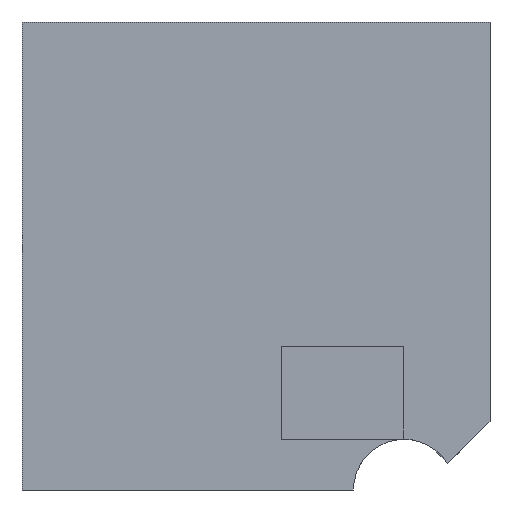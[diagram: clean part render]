
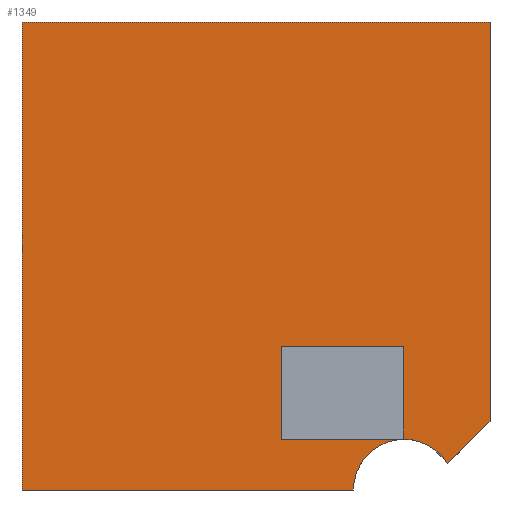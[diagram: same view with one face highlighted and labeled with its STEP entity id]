
A CAD part, left-side view. The second image highlights one B-rep face of the part: STEP entity #1349.
In plain terms, the highlighted planar face has unit normal (-1, 0, 0).
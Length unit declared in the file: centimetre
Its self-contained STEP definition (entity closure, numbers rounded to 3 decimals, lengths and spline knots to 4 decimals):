
#7 = LINE ( 'NONE', #356, #1273 ) ;
#40 = ORIENTED_EDGE ( 'NONE', *, *, #246, .F. ) ;
#42 = CARTESIAN_POINT ( 'NONE',  ( 0., 291.85, 0. ) ) ;
#45 = CARTESIAN_POINT ( 'NONE',  ( 0., 446.2146, 306.9474 ) ) ;
#57 = DIRECTION ( 'NONE',  ( 0., 0., -1. ) ) ;
#61 = EDGE_CURVE ( 'NONE', #874, #974, #624, .T. ) ;
#73 = VECTOR ( 'NONE', #1191, 100. ) ;
#90 = VECTOR ( 'NONE', #1156, 100. ) ;
#139 = EDGE_CURVE ( 'NONE', #668, #399, #642, .T. ) ;
#200 = DIRECTION ( 'NONE',  ( 0., 0., -1. ) ) ;
#223 = EDGE_LOOP ( 'NONE', ( #40, #1062, #1078, #769 ) ) ;
#228 = DIRECTION ( 'NONE',  ( 0., 0., -1. ) ) ;
#246 = EDGE_CURVE ( 'NONE', #660, #668, #736, .T. ) ;
#288 = EDGE_CURVE ( 'NONE', #799, #1077, #1048, .T. ) ;
#312 = CARTESIAN_POINT ( 'NONE',  ( 0., 446.2146, 108.818 ) ) ;
#323 = VECTOR ( 'NONE', #1392, 100. ) ;
#356 = CARTESIAN_POINT ( 'NONE',  ( 0., 0., 146.9115 ) ) ;
#360 = DIRECTION ( 'NONE',  ( 1., 0., 0. ) ) ;
#372 = CARTESIAN_POINT ( 'NONE',  ( 0., 1000., 0. ) ) ;
#393 = ORIENTED_EDGE ( 'NONE', *, *, #882, .F. ) ;
#399 = VERTEX_POINT ( 'NONE', #45 ) ;
#416 = AXIS2_PLACEMENT_3D ( 'NONE', #1141, #360, #228 ) ;
#433 = CARTESIAN_POINT ( 'NONE',  ( 0., 0., 1000. ) ) ;
#476 = EDGE_CURVE ( 'NONE', #1127, #799, #1400, .T. ) ;
#530 = CARTESIAN_POINT ( 'NONE',  ( 0., 1000., 1000. ) ) ;
#557 = LINE ( 'NONE', #897, #663 ) ;
#586 = CARTESIAN_POINT ( 'NONE',  ( 0., 1000., 1000. ) ) ;
#624 = LINE ( 'NONE', #755, #1457 ) ;
#642 = LINE ( 'NONE', #1091, #1121 ) ;
#660 = VERTEX_POINT ( 'NONE', #1033 ) ;
#663 = VECTOR ( 'NONE', #200, 100. ) ;
#668 = VERTEX_POINT ( 'NONE', #781 ) ;
#731 = CARTESIAN_POINT ( 'NONE',  ( 0., 1000., 0. ) ) ;
#734 = VECTOR ( 'NONE', #952, 100. ) ;
#736 = LINE ( 'NONE', #746, #73 ) ;
#746 = CARTESIAN_POINT ( 'NONE',  ( 0., 185.0723, 108.818 ) ) ;
#755 = CARTESIAN_POINT ( 'NONE',  ( 0., 0., 1000. ) ) ;
#759 = FACE_BOUND ( 'NONE', #223, .T. ) ;
#765 = FACE_OUTER_BOUND ( 'NONE', #932, .T. ) ;
#769 = ORIENTED_EDGE ( 'NONE', *, *, #139, .F. ) ;
#781 = CARTESIAN_POINT ( 'NONE',  ( 0., 185.0723, 306.9474 ) ) ;
#799 = VERTEX_POINT ( 'NONE', #42 ) ;
#832 = ORIENTED_EDGE ( 'NONE', *, *, #1135, .T. ) ;
#833 = CARTESIAN_POINT ( 'NONE',  ( 0., 1000., 1000. ) ) ;
#839 = CARTESIAN_POINT ( 'NONE',  ( 0., 185.0723, 108.818 ) ) ;
#867 = VECTOR ( 'NONE', #1100, 100. ) ;
#868 = ORIENTED_EDGE ( 'NONE', *, *, #476, .T. ) ;
#874 = VERTEX_POINT ( 'NONE', #433 ) ;
#882 = EDGE_CURVE ( 'NONE', #1222, #874, #1296, .T. ) ;
#890 = VERTEX_POINT ( 'NONE', #312 ) ;
#897 = CARTESIAN_POINT ( 'NONE',  ( 0., 446.2146, 108.818 ) ) ;
#922 = AXIS2_PLACEMENT_3D ( 'NONE', #530, #968, #1437 ) ;
#932 = EDGE_LOOP ( 'NONE', ( #868, #1235, #1175, #1268, #393, #832 ) ) ;
#952 = DIRECTION ( 'NONE',  ( 0., 0., -1. ) ) ;
#968 = DIRECTION ( 'NONE',  ( 1., 0., 0. ) ) ;
#974 = VERTEX_POINT ( 'NONE', #1230 ) ;
#1033 = CARTESIAN_POINT ( 'NONE',  ( 0., 185.0723, 108.818 ) ) ;
#1036 = LINE ( 'NONE', #833, #734 ) ;
#1048 = CIRCLE ( 'NONE', #416, 108.3054 ) ;
#1062 = ORIENTED_EDGE ( 'NONE', *, *, #1160, .F. ) ;
#1077 = VERTEX_POINT ( 'NONE', #1370 ) ;
#1078 = ORIENTED_EDGE ( 'NONE', *, *, #1308, .F. ) ;
#1081 = PLANE ( 'NONE',  #922 ) ;
#1091 = CARTESIAN_POINT ( 'NONE',  ( 0., 185.0723, 306.9474 ) ) ;
#1094 = EDGE_CURVE ( 'NONE', #1077, #974, #7, .T. ) ;
#1100 = DIRECTION ( 'NONE',  ( 0., -1., 0. ) ) ;
#1121 = VECTOR ( 'NONE', #1311, 100. ) ;
#1127 = VERTEX_POINT ( 'NONE', #372 ) ;
#1135 = EDGE_CURVE ( 'NONE', #1222, #1127, #1036, .T. ) ;
#1141 = CARTESIAN_POINT ( 'NONE',  ( 0., 183.5446, 0. ) ) ;
#1150 = LINE ( 'NONE', #839, #90 ) ;
#1156 = DIRECTION ( 'NONE',  ( 0., -1., 0. ) ) ;
#1160 = EDGE_CURVE ( 'NONE', #890, #660, #1150, .T. ) ;
#1175 = ORIENTED_EDGE ( 'NONE', *, *, #1094, .T. ) ;
#1191 = DIRECTION ( 'NONE',  ( 0., 0., 1. ) ) ;
#1195 = CARTESIAN_POINT ( 'NONE',  ( 0., 1000., 1000. ) ) ;
#1222 = VERTEX_POINT ( 'NONE', #586 ) ;
#1230 = CARTESIAN_POINT ( 'NONE',  ( 0., 0., 146.9115 ) ) ;
#1235 = ORIENTED_EDGE ( 'NONE', *, *, #288, .T. ) ;
#1268 = ORIENTED_EDGE ( 'NONE', *, *, #61, .F. ) ;
#1273 = VECTOR ( 'NONE', #1376, 100. ) ;
#1296 = LINE ( 'NONE', #1195, #867 ) ;
#1308 = EDGE_CURVE ( 'NONE', #399, #890, #557, .T. ) ;
#1311 = DIRECTION ( 'NONE',  ( 0., 1., 0. ) ) ;
#1349 = ADVANCED_FACE ( 'NONE', ( #759, #765 ), #1081, .F. ) ;
#1370 = CARTESIAN_POINT ( 'NONE',  ( 0., 90.8672, 56.0442 ) ) ;
#1376 = DIRECTION ( 'NONE',  ( 0., -0.707, 0.707 ) ) ;
#1392 = DIRECTION ( 'NONE',  ( 0., -1., 0. ) ) ;
#1400 = LINE ( 'NONE', #731, #323 ) ;
#1437 = DIRECTION ( 'NONE',  ( 0., 0., -1. ) ) ;
#1457 = VECTOR ( 'NONE', #57, 100. ) ;
